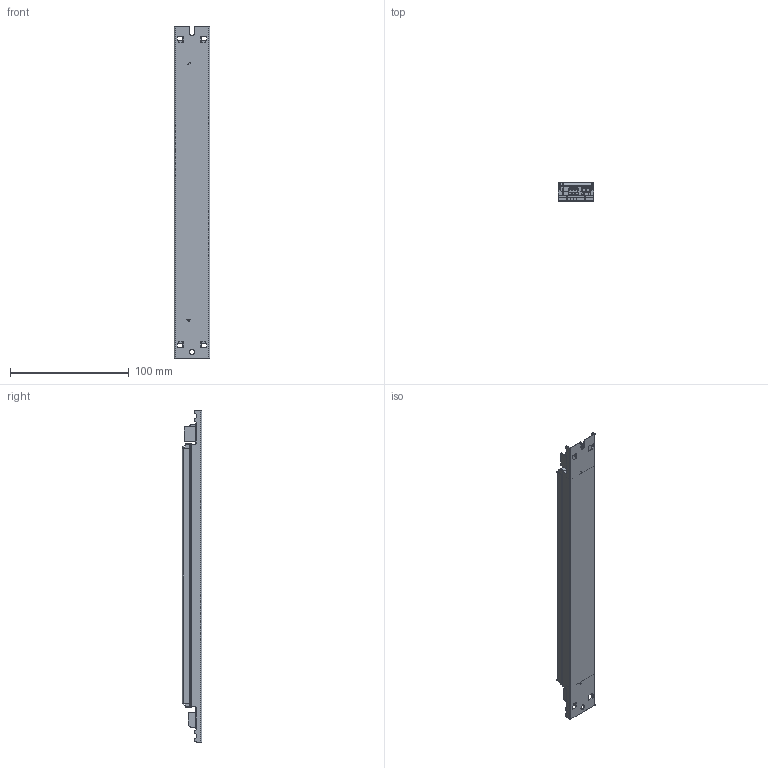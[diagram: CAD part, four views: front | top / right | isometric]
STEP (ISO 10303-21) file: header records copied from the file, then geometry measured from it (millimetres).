
FILE_DESCRIPTION (( 'STEP AP203' ), '1' );
FILE_NAME ('T5840.STEP', '2025-09-30T15:44:03', ( '' ), ( '' ), 'SwSTEP 2.0', 'SolidWorks 2022', '' );
FILE_SCHEMA (( 'CONFIG_CONTROL_DESIGN' ));
Length unit declared in the file: millimetre
Products named in the file (1): T5840
Bounding box: 30 x 16.4 x 280 mm (x, y, z)
Volume: 111168.4 mm3; surface area: 31907.3 mm2
Topology: 4 solids, 4 shells, 1440 faces, 4067 edges, 2628 vertices
Faces by surface type: plane 996, cylinder 336, bspline 53, torus 30, cone 25
Entity records: 48657 total; most frequent: CARTESIAN_POINT 11405, ORIENTED_EDGE 8134, DIRECTION 7255, EDGE_CURVE 4067, LINE 3083, VECTOR 3083, VERTEX_POINT 2628, AXIS2_PLACEMENT_3D 2086
